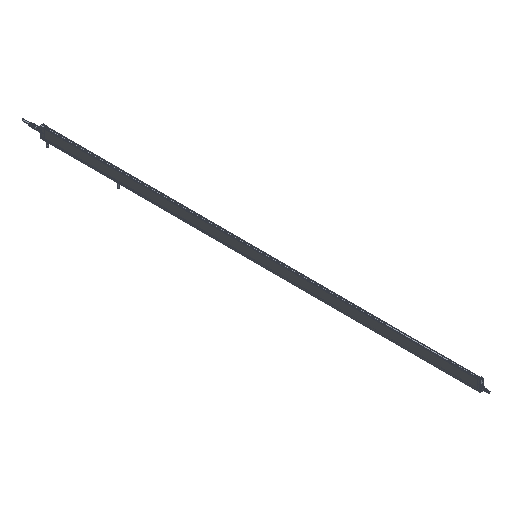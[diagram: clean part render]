
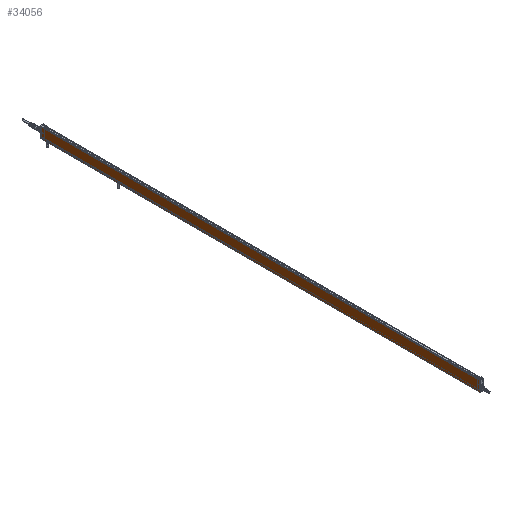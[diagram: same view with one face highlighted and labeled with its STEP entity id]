
A CAD part, isometric view. The second image highlights one B-rep face of the part: STEP entity #34056.
In plain terms, the highlighted planar face has unit normal (-1, 0, 0).
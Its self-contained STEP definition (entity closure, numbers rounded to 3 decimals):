
#4 = VERTEX_POINT ( 'NONE', #19835 ) ;
#641 = VERTEX_POINT ( 'NONE', #33533 ) ;
#1096 = VERTEX_POINT ( 'NONE', #25664 ) ;
#1462 = EDGE_CURVE ( 'NONE', #31952, #4, #25586, .T. ) ;
#4475 = LINE ( 'NONE', #12772, #24632 ) ;
#4651 = EDGE_CURVE ( 'NONE', #641, #1096, #18187, .T. ) ;
#4823 = DIRECTION ( 'NONE',  ( 0., -1., 0. ) ) ;
#4947 = VECTOR ( 'NONE', #19260, 1000. ) ;
#5136 = ORIENTED_EDGE ( 'NONE', *, *, #33344, .T. ) ;
#5241 = DIRECTION ( 'NONE',  ( 0., 0., -1. ) ) ;
#5310 = LINE ( 'NONE', #21930, #19748 ) ;
#7522 = CARTESIAN_POINT ( 'NONE',  ( -9., 0., 28.5 ) ) ;
#9779 = AXIS2_PLACEMENT_3D ( 'NONE', #16022, #29107, #13305 ) ;
#9889 = ORIENTED_EDGE ( 'NONE', *, *, #1462, .F. ) ;
#10696 = PLANE ( 'NONE',  #9779 ) ;
#12772 = CARTESIAN_POINT ( 'NONE',  ( -9., 1229., 0.5 ) ) ;
#13305 = DIRECTION ( 'NONE',  ( 0., -1., 0. ) ) ;
#15689 = CARTESIAN_POINT ( 'NONE',  ( -9., 1229., 28.5 ) ) ;
#16022 = CARTESIAN_POINT ( 'NONE',  ( -9., 1229., 28.5 ) ) ;
#18187 = LINE ( 'NONE', #15689, #21848 ) ;
#19137 = CARTESIAN_POINT ( 'NONE',  ( -9., 0., 28.5 ) ) ;
#19260 = DIRECTION ( 'NONE',  ( 0., 0., -1. ) ) ;
#19748 = VECTOR ( 'NONE', #22747, 1000. ) ;
#19835 = CARTESIAN_POINT ( 'NONE',  ( -9., 0., 0.5 ) ) ;
#21848 = VECTOR ( 'NONE', #5241, 1000. ) ;
#21930 = CARTESIAN_POINT ( 'NONE',  ( -9., 1229., 28.5 ) ) ;
#22436 = EDGE_CURVE ( 'NONE', #641, #31952, #5310, .T. ) ;
#22747 = DIRECTION ( 'NONE',  ( 0., -1., 0. ) ) ;
#24248 = ORIENTED_EDGE ( 'NONE', *, *, #4651, .T. ) ;
#24632 = VECTOR ( 'NONE', #4823, 1000. ) ;
#25140 = FACE_OUTER_BOUND ( 'NONE', #25438, .T. ) ;
#25438 = EDGE_LOOP ( 'NONE', ( #9889, #33783, #24248, #5136 ) ) ;
#25586 = LINE ( 'NONE', #19137, #4947 ) ;
#25664 = CARTESIAN_POINT ( 'NONE',  ( -9., 1229., 0.5 ) ) ;
#29107 = DIRECTION ( 'NONE',  ( -1., 0., 0. ) ) ;
#31952 = VERTEX_POINT ( 'NONE', #7522 ) ;
#33344 = EDGE_CURVE ( 'NONE', #1096, #4, #4475, .T. ) ;
#33533 = CARTESIAN_POINT ( 'NONE',  ( -9., 1229., 28.5 ) ) ;
#33783 = ORIENTED_EDGE ( 'NONE', *, *, #22436, .F. ) ;
#34056 = ADVANCED_FACE ( 'NONE', ( #25140 ), #10696, .T. ) ;
